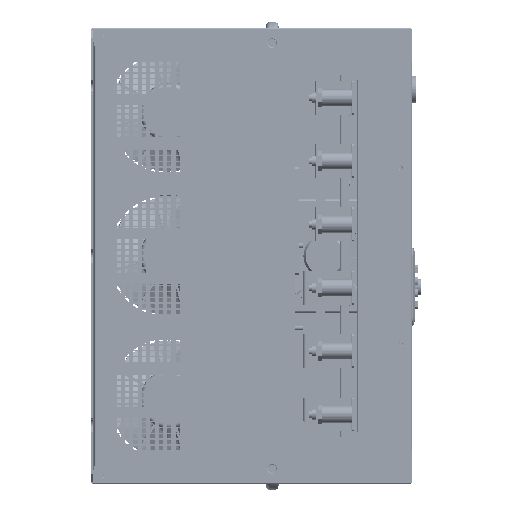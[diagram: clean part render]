
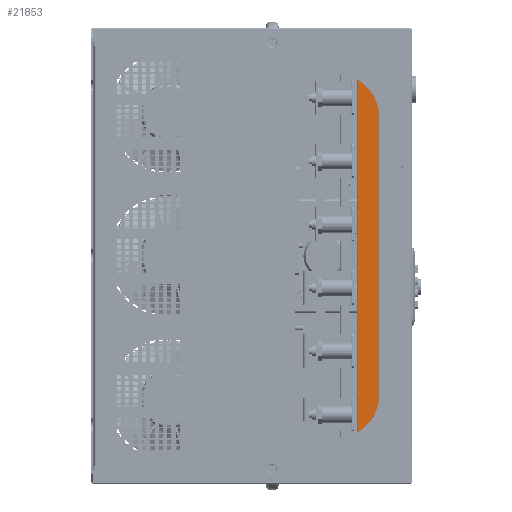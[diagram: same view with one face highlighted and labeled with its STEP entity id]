
A CAD part, front view. The second image highlights one B-rep face of the part: STEP entity #21853.
In plain terms, the highlighted planar face has unit normal (0, -1, 0) as drawn and (0, 0, -1) by its records, which use the part's own axes.
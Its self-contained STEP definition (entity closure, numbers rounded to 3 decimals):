
#21853=ADVANCED_FACE('',(#106228),#106230,.T.);
#106228=FACE_BOUND('',#106229,.T.);
#106229=EDGE_LOOP('',(#188130,#188131,#188132,#188133));
#106230=PLANE('',#106231);
#106231=AXIS2_PLACEMENT_3D('',#106232,#106233,#106234);
#106232=CARTESIAN_POINT('',(-110.335,0.,-112.5));
#106233=DIRECTION('',(0.,0.,-1.));
#106234=DIRECTION('',(1.,0.,0.));
#188130=ORIENTED_EDGE('',*,*,#247147,.T.);
#188131=ORIENTED_EDGE('',*,*,#247148,.T.);
#188132=ORIENTED_EDGE('',*,*,#247111,.T.);
#188133=ORIENTED_EDGE('',*,*,#247149,.T.);
#247111=EDGE_CURVE('',#284690,#284691,#284692,.T.);
#247147=EDGE_CURVE('',#284734,#284735,#284736,.T.);
#247148=EDGE_CURVE('',#284735,#284690,#284737,.T.);
#247149=EDGE_CURVE('',#284691,#284734,#284738,.T.);
#284690=VERTEX_POINT('',#365173);
#284691=VERTEX_POINT('',#365174);
#284692=LINE('',#365175,#365176);
#284734=VERTEX_POINT('',#365291);
#284735=VERTEX_POINT('',#365292);
#284736=LINE('',#365293,#365294);
#284737=LINE('',#365296,#365297);
#284738=LINE('',#365299,#365300);
#365173=CARTESIAN_POINT('',(1.75,-250.,-112.5));
#365174=CARTESIAN_POINT('',(1.75,250.,-112.5));
#365175=CARTESIAN_POINT('',(1.75,-250.,-112.5));
#365176=VECTOR('',#365177,1.);
#365177=DIRECTION('',(0.,1.,0.));
#365291=CARTESIAN_POINT('',(28.25,250.,-112.5));
#365292=CARTESIAN_POINT('',(28.25,-250.,-112.5));
#365293=CARTESIAN_POINT('',(28.25,250.,-112.5));
#365294=VECTOR('',#365295,1.);
#365295=DIRECTION('',(0.,-1.,0.));
#365296=CARTESIAN_POINT('',(28.25,-250.,-112.5));
#365297=VECTOR('',#365298,1.);
#365298=DIRECTION('',(-1.,0.,0.));
#365299=CARTESIAN_POINT('',(1.75,250.,-112.5));
#365300=VECTOR('',#365301,1.);
#365301=DIRECTION('',(1.,0.,0.));
